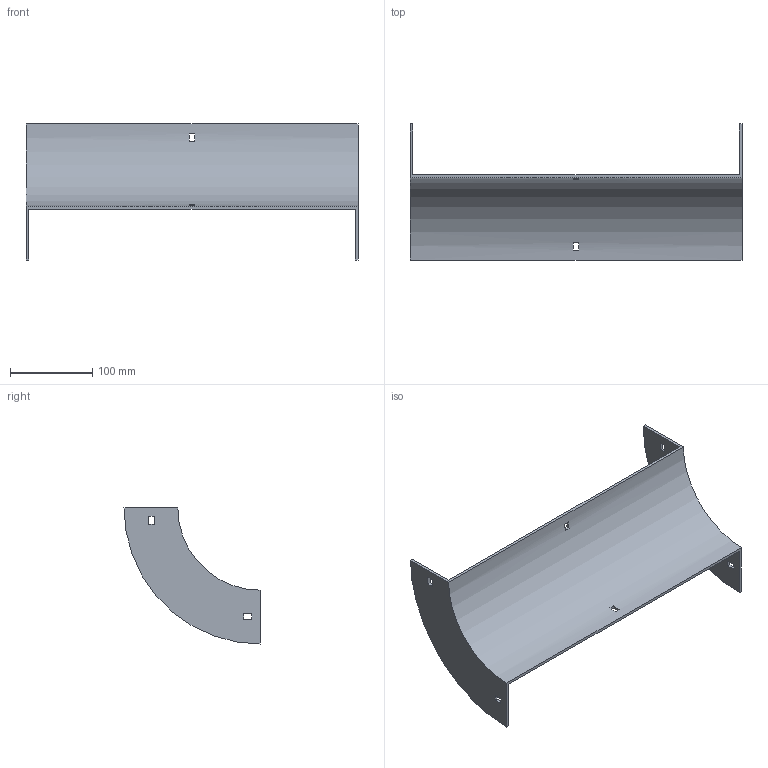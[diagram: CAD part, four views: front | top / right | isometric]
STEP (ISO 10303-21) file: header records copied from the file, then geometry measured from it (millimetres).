
FILE_DESCRIPTION (( 'STEP AP214' ), '1' );
FILE_NAME ('33B1H400.step', '2025-02-21T09:32:13', ( '' ), ( '' ), 'SwSTEP 2.0', 'SolidWorks 2023', '' );
FILE_SCHEMA (( 'AUTOMOTIVE_DESIGN' ));
Length unit declared in the file: millimetre
Products named in the file (1): 33B1H400
Bounding box: 404 x 165.5 x 165.5 mm (x, y, z)
Volume: 316294.5 mm3; surface area: 186932.3 mm2
Topology: 1 solids, 1 shells, 34 faces, 96 edges, 64 vertices
Faces by surface type: plane 30, cylinder 4
Entity records: 1143 total; most frequent: CARTESIAN_POINT 195, ORIENTED_EDGE 192, DIRECTION 182, EDGE_CURVE 96, LINE 80, VECTOR 80, VERTEX_POINT 64, AXIS2_PLACEMENT_3D 51
